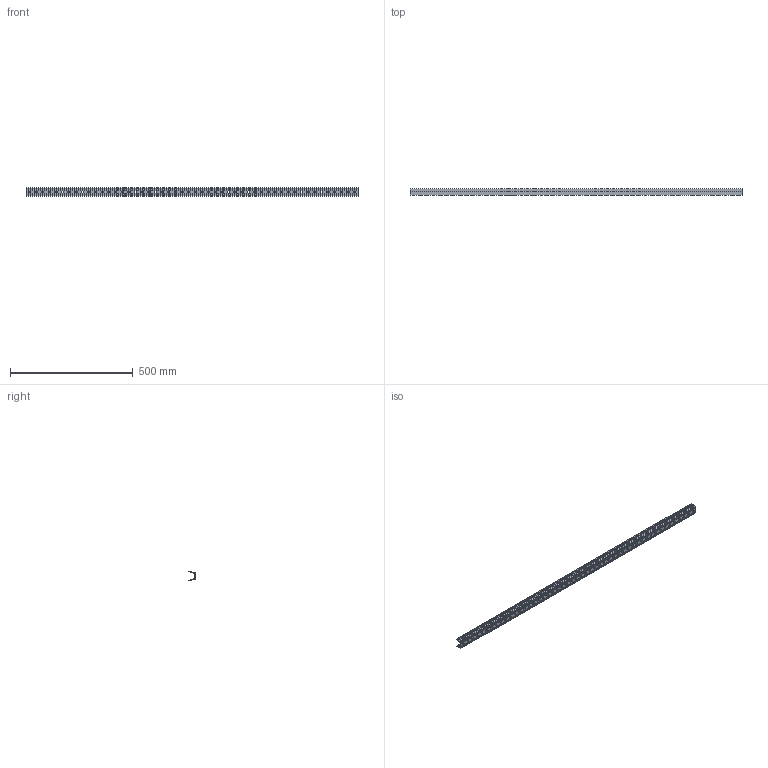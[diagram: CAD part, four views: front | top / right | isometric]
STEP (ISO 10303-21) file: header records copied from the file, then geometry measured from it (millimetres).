
FILE_DESCRIPTION( ( 'STEP AP203' ), '1' );
FILE_NAME( 'C:/Temp/Ganter_Step_05_03_2020/data/3_8/gn_646_3/Carrier profile GN 646.3-1350-B (15).stp', '2020-03-12T15:24:26', ( 'License CC BY-ND 4.0' ), ( 'CADENAS' ), ' ', 'PARTsolutions', ' ' );
FILE_SCHEMA( ( 'CONFIG_CONTROL_DESIGN' ) );
Length unit declared in the file: millimetre
Products named in the file (1): _Carrier profile GN 646.3-1350-B (15)
Bounding box: 1350 x 26.5 x 36 mm (x, y, z)
Volume: 222604.6 mm3; surface area: 281386.6 mm2
Topology: 1 solids, 1 shells, 312 faces, 930 edges, 620 vertices
Faces by surface type: plane 170, cylinder 142
Entity records: 10782 total; most frequent: CARTESIAN_POINT 1863, ORIENTED_EDGE 1860, DIRECTION 1840, EDGE_CURVE 930, LINE 646, VECTOR 646, VERTEX_POINT 620, AXIS2_PLACEMENT_3D 597
